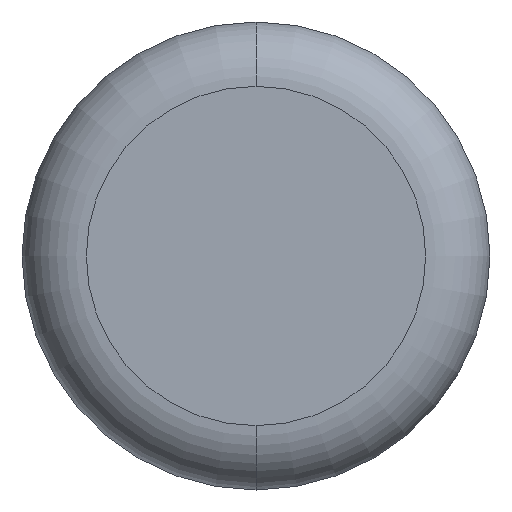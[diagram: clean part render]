
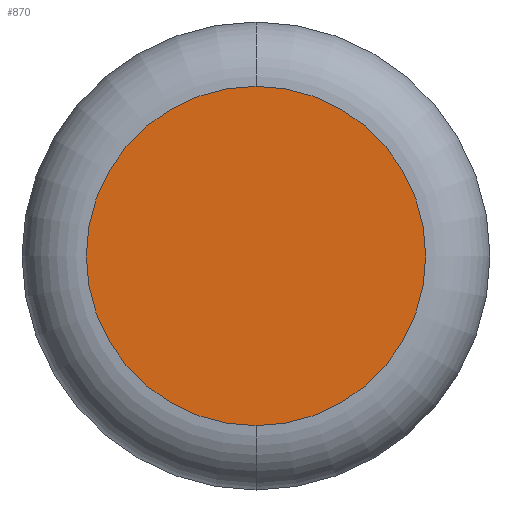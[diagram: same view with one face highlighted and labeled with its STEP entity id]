
A CAD part, left-side view. The second image highlights one B-rep face of the part: STEP entity #870.
In plain terms, the highlighted planar face has unit normal (-1, 0, 0) as drawn and (0, 1, 0) by its records, which use the part's own axes.
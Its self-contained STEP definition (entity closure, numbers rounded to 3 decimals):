
#20 = EDGE_CURVE ( 'NONE', #722, #47, #930, .T. ) ;
#43 = CARTESIAN_POINT ( 'NONE',  ( 0., 14.6, 0. ) ) ;
#47 = VERTEX_POINT ( 'NONE', #522 ) ;
#89 = AXIS2_PLACEMENT_3D ( 'NONE', #944, #182, #705 ) ;
#124 = DIRECTION ( 'NONE',  ( 0., -1., 0. ) ) ;
#128 = FACE_OUTER_BOUND ( 'NONE', #308, .T. ) ;
#182 = DIRECTION ( 'NONE',  ( 0., 1., 0. ) ) ;
#204 = CARTESIAN_POINT ( 'NONE',  ( 0., 14.6, 0. ) ) ;
#271 = DIRECTION ( 'NONE',  ( 0., -1., 0. ) ) ;
#308 = EDGE_LOOP ( 'NONE', ( #981, #386 ) ) ;
#327 = PLANE ( 'NONE',  #89 ) ;
#386 = ORIENTED_EDGE ( 'NONE', *, *, #548, .F. ) ;
#502 = AXIS2_PLACEMENT_3D ( 'NONE', #43, #124, #649 ) ;
#516 = CARTESIAN_POINT ( 'NONE',  ( 0., 14.6, -5.279 ) ) ;
#522 = CARTESIAN_POINT ( 'NONE',  ( 0., 14.6, 5.279 ) ) ;
#548 = EDGE_CURVE ( 'NONE', #47, #722, #717, .T. ) ;
#649 = DIRECTION ( 'NONE',  ( 0., 0., -1. ) ) ;
#705 = DIRECTION ( 'NONE',  ( 0., 0., 1. ) ) ;
#717 = CIRCLE ( 'NONE', #935, 5.279 ) ;
#722 = VERTEX_POINT ( 'NONE', #516 ) ;
#870 = ADVANCED_FACE ( 'NONE', ( #128 ), #327, .T. ) ;
#876 = DIRECTION ( 'NONE',  ( 0., 0., -1. ) ) ;
#930 = CIRCLE ( 'NONE', #502, 5.279 ) ;
#935 = AXIS2_PLACEMENT_3D ( 'NONE', #204, #271, #876 ) ;
#944 = CARTESIAN_POINT ( 'NONE',  ( 0., 14.6, 0. ) ) ;
#981 = ORIENTED_EDGE ( 'NONE', *, *, #20, .F. ) ;
